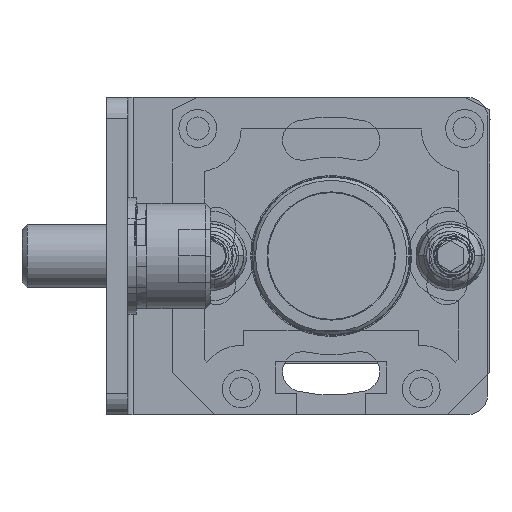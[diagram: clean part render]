
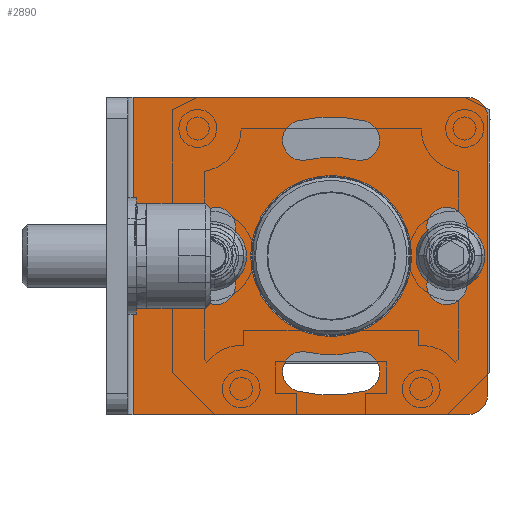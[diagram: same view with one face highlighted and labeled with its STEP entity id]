
A CAD part, front view. The second image highlights one B-rep face of the part: STEP entity #2890.
In plain terms, the highlighted planar face has unit normal (0, -1, 0).
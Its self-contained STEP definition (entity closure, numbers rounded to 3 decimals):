
#692=LINE('',#40670,#1452);
#697=LINE('',#40682,#1457);
#703=LINE('',#40698,#1463);
#707=LINE('',#40722,#1467);
#1452=VECTOR('',#13263,1.);
#1457=VECTOR('',#13272,1.);
#1463=VECTOR('',#13290,1.);
#1467=VECTOR('',#13320,1.);
#1962=PLANE('',#11082);
#2299=FACE_BOUND('',#4309,.T.);
#2300=FACE_BOUND('',#4310,.T.);
#2301=FACE_BOUND('',#4311,.T.);
#2302=FACE_BOUND('',#4312,.T.);
#2303=FACE_BOUND('',#4313,.T.);
#2304=FACE_BOUND('',#4314,.T.);
#2890=ADVANCED_FACE('',(#2299,#2300,#2301,#2302,#2303,#2304),#1962,.T.);
#4309=EDGE_LOOP('',(#6781,#6782,#6783,#6784));
#4310=EDGE_LOOP('',(#6785,#6786,#6787,#6788));
#4311=EDGE_LOOP('',(#6789,#6790,#6791,#6792));
#4312=EDGE_LOOP('',(#6793));
#4313=EDGE_LOOP('',(#6794,#6795,#6796,#6797));
#4314=EDGE_LOOP('',(#6798,#6799,#6800,#6801,#6802,#6803));
#6781=ORIENTED_EDGE('',*,*,#9603,.T.);
#6782=ORIENTED_EDGE('',*,*,#9604,.T.);
#6783=ORIENTED_EDGE('',*,*,#9542,.T.);
#6784=ORIENTED_EDGE('',*,*,#9605,.T.);
#6785=ORIENTED_EDGE('',*,*,#9606,.T.);
#6786=ORIENTED_EDGE('',*,*,#9546,.T.);
#6787=ORIENTED_EDGE('',*,*,#9607,.T.);
#6788=ORIENTED_EDGE('',*,*,#9550,.T.);
#6789=ORIENTED_EDGE('',*,*,#9608,.T.);
#6790=ORIENTED_EDGE('',*,*,#9554,.T.);
#6791=ORIENTED_EDGE('',*,*,#9609,.T.);
#6792=ORIENTED_EDGE('',*,*,#9558,.T.);
#6793=ORIENTED_EDGE('',*,*,#9563,.T.);
#6794=ORIENTED_EDGE('',*,*,#9610,.T.);
#6795=ORIENTED_EDGE('',*,*,#9611,.T.);
#6796=ORIENTED_EDGE('',*,*,#9612,.T.);
#6797=ORIENTED_EDGE('',*,*,#9564,.T.);
#6798=ORIENTED_EDGE('',*,*,#9613,.T.);
#6799=ORIENTED_EDGE('',*,*,#9614,.T.);
#6800=ORIENTED_EDGE('',*,*,#9598,.F.);
#6801=ORIENTED_EDGE('',*,*,#9584,.T.);
#6802=ORIENTED_EDGE('',*,*,#9590,.F.);
#6803=ORIENTED_EDGE('',*,*,#9615,.T.);
#8262=VERTEX_POINT('',#40580);
#8263=VERTEX_POINT('',#40581);
#8266=VERTEX_POINT('',#40589);
#8267=VERTEX_POINT('',#40590);
#8270=VERTEX_POINT('',#40598);
#8271=VERTEX_POINT('',#40599);
#8274=VERTEX_POINT('',#40607);
#8275=VERTEX_POINT('',#40608);
#8278=VERTEX_POINT('',#40616);
#8279=VERTEX_POINT('',#40617);
#8283=VERTEX_POINT('',#40627);
#8284=VERTEX_POINT('',#40630);
#8285=VERTEX_POINT('',#40631);
#8298=VERTEX_POINT('',#40667);
#8299=VERTEX_POINT('',#40669);
#8304=VERTEX_POINT('',#40681);
#8309=VERTEX_POINT('',#40699);
#8312=VERTEX_POINT('',#40709);
#8313=VERTEX_POINT('',#40710);
#8314=VERTEX_POINT('',#40718);
#8315=VERTEX_POINT('',#40720);
#8316=VERTEX_POINT('',#40723);
#8317=VERTEX_POINT('',#40724);
#9542=EDGE_CURVE('',#8262,#8263,#10244,.T.);
#9546=EDGE_CURVE('',#8266,#8267,#10246,.T.);
#9550=EDGE_CURVE('',#8270,#8271,#10248,.T.);
#9554=EDGE_CURVE('',#8274,#8275,#10250,.T.);
#9558=EDGE_CURVE('',#8278,#8279,#10252,.T.);
#9563=EDGE_CURVE('',#8283,#8283,#10255,.T.);
#9564=EDGE_CURVE('',#8284,#8285,#10256,.T.);
#9584=EDGE_CURVE('',#8298,#8299,#692,.T.);
#9590=EDGE_CURVE('',#8304,#8299,#697,.T.);
#9598=EDGE_CURVE('',#8298,#8309,#703,.T.);
#9603=EDGE_CURVE('',#8312,#8313,#10268,.T.);
#9604=EDGE_CURVE('',#8313,#8262,#10269,.T.);
#9605=EDGE_CURVE('',#8263,#8312,#10270,.T.);
#9606=EDGE_CURVE('',#8271,#8266,#10271,.T.);
#9607=EDGE_CURVE('',#8267,#8270,#10272,.T.);
#9608=EDGE_CURVE('',#8279,#8274,#10273,.T.);
#9609=EDGE_CURVE('',#8275,#8278,#10274,.T.);
#9610=EDGE_CURVE('',#8285,#8314,#10275,.T.);
#9611=EDGE_CURVE('',#8314,#8315,#10276,.T.);
#9612=EDGE_CURVE('',#8315,#8284,#10277,.T.);
#9613=EDGE_CURVE('',#8316,#8317,#707,.T.);
#9614=EDGE_CURVE('',#8317,#8309,#10278,.T.);
#9615=EDGE_CURVE('',#8304,#8316,#10279,.T.);
#10244=CIRCLE('',#11028,1.9);
#10246=CIRCLE('',#11031,13.15);
#10248=CIRCLE('',#11034,9.35);
#10250=CIRCLE('',#11037,1.9);
#10252=CIRCLE('',#11040,1.9);
#10255=CIRCLE('',#11044,7.6);
#10256=CIRCLE('',#11046,1.9);
#10268=CIRCLE('',#11070,1.9);
#10269=CIRCLE('',#11071,13.15);
#10270=CIRCLE('',#11072,9.35);
#10271=CIRCLE('',#11073,1.9);
#10272=CIRCLE('',#11074,1.9);
#10273=CIRCLE('',#11075,13.15);
#10274=CIRCLE('',#11076,9.35);
#10275=CIRCLE('',#11077,13.15);
#10276=CIRCLE('',#11078,1.9);
#10277=CIRCLE('',#11079,9.35);
#10278=CIRCLE('',#11080,2.);
#10279=CIRCLE('',#11081,2.);
#11028=AXIS2_PLACEMENT_3D('',#40579,#13179,#13180);
#11031=AXIS2_PLACEMENT_3D('',#40588,#13187,#13188);
#11034=AXIS2_PLACEMENT_3D('',#40597,#13195,#13196);
#11037=AXIS2_PLACEMENT_3D('',#40606,#13203,#13204);
#11040=AXIS2_PLACEMENT_3D('',#40615,#13211,#13212);
#11044=AXIS2_PLACEMENT_3D('',#40626,#13221,#13222);
#11046=AXIS2_PLACEMENT_3D('',#40629,#13225,#13226);
#11070=AXIS2_PLACEMENT_3D('',#40708,#13300,#13301);
#11071=AXIS2_PLACEMENT_3D('',#40711,#13302,#13303);
#11072=AXIS2_PLACEMENT_3D('',#40712,#13304,#13305);
#11073=AXIS2_PLACEMENT_3D('',#40713,#13306,#13307);
#11074=AXIS2_PLACEMENT_3D('',#40714,#13308,#13309);
#11075=AXIS2_PLACEMENT_3D('',#40715,#13310,#13311);
#11076=AXIS2_PLACEMENT_3D('',#40716,#13312,#13313);
#11077=AXIS2_PLACEMENT_3D('',#40717,#13314,#13315);
#11078=AXIS2_PLACEMENT_3D('',#40719,#13316,#13317);
#11079=AXIS2_PLACEMENT_3D('',#40721,#13318,#13319);
#11080=AXIS2_PLACEMENT_3D('',#40725,#13321,#13322);
#11081=AXIS2_PLACEMENT_3D('',#40726,#13323,#13324);
#11082=AXIS2_PLACEMENT_3D('',#40727,#13325,#13326);
#13179=DIRECTION('',(0.,1.,0.));
#13180=DIRECTION('',(0.,0.,1.));
#13187=DIRECTION('',(0.,1.,0.));
#13188=DIRECTION('',(0.,0.,1.));
#13195=DIRECTION('',(0.,-1.,0.));
#13196=DIRECTION('',(0.,0.,1.));
#13203=DIRECTION('',(0.,1.,0.));
#13204=DIRECTION('',(0.,0.,1.));
#13211=DIRECTION('',(0.,1.,0.));
#13212=DIRECTION('',(0.,0.,1.));
#13221=DIRECTION('',(0.,1.,0.));
#13222=DIRECTION('',(0.,0.,1.));
#13225=DIRECTION('',(0.,1.,0.));
#13226=DIRECTION('',(0.,0.,1.));
#13263=DIRECTION('',(0.,0.,-1.));
#13272=DIRECTION('',(-1.,0.,0.));
#13290=DIRECTION('',(1.,0.,0.));
#13300=DIRECTION('',(0.,1.,0.));
#13301=DIRECTION('',(0.,0.,1.));
#13302=DIRECTION('',(0.,1.,0.));
#13303=DIRECTION('',(0.,0.,1.));
#13304=DIRECTION('',(0.,-1.,0.));
#13305=DIRECTION('',(0.,0.,1.));
#13306=DIRECTION('',(0.,1.,0.));
#13307=DIRECTION('',(0.,0.,1.));
#13308=DIRECTION('',(0.,1.,0.));
#13309=DIRECTION('',(0.,0.,1.));
#13310=DIRECTION('',(0.,1.,0.));
#13311=DIRECTION('',(0.,0.,1.));
#13312=DIRECTION('',(0.,-1.,0.));
#13313=DIRECTION('',(0.,0.,1.));
#13314=DIRECTION('',(0.,1.,0.));
#13315=DIRECTION('',(0.,0.,1.));
#13316=DIRECTION('',(0.,1.,0.));
#13317=DIRECTION('',(0.,0.,1.));
#13318=DIRECTION('',(0.,-1.,0.));
#13319=DIRECTION('',(0.,0.,1.));
#13320=DIRECTION('',(0.,0.,1.));
#13321=DIRECTION('',(0.,-1.,0.));
#13322=DIRECTION('',(0.,0.,-1.));
#13323=DIRECTION('',(0.,-1.,0.));
#13324=DIRECTION('',(0.,0.,1.));
#13325=DIRECTION('',(0.,-1.,0.));
#13326=DIRECTION('',(-1.,0.,0.));
#40579=CARTESIAN_POINT('',(-110.921,-1208.,2.851));
#40580=CARTESIAN_POINT('',(-112.765,-1208.,3.307));
#40581=CARTESIAN_POINT('',(-109.077,-1208.,2.395));
#40588=CARTESIAN_POINT('',(-100.,-1208.,0.15));
#40589=CARTESIAN_POINT('',(-103.157,-1208.,12.915));
#40590=CARTESIAN_POINT('',(-96.843,-1208.,12.915));
#40597=CARTESIAN_POINT('',(-100.,-1208.,0.15));
#40598=CARTESIAN_POINT('',(-97.755,-1208.,9.227));
#40599=CARTESIAN_POINT('',(-102.245,-1208.,9.227));
#40606=CARTESIAN_POINT('',(-102.701,-1208.,-10.771));
#40607=CARTESIAN_POINT('',(-103.157,-1208.,-12.615));
#40608=CARTESIAN_POINT('',(-102.245,-1208.,-8.927));
#40615=CARTESIAN_POINT('',(-97.299,-1208.,-10.771));
#40616=CARTESIAN_POINT('',(-97.755,-1208.,-8.927));
#40617=CARTESIAN_POINT('',(-96.843,-1208.,-12.615));
#40626=CARTESIAN_POINT('',(-100.,-1208.,0.15));
#40627=CARTESIAN_POINT('',(-100.,-1208.,7.75));
#40629=CARTESIAN_POINT('',(-89.079,-1208.,2.851));
#40630=CARTESIAN_POINT('',(-90.923,-1208.,2.395));
#40631=CARTESIAN_POINT('',(-87.235,-1208.,3.307));
#40667=CARTESIAN_POINT('',(-118.7,-1208.,15.15));
#40669=CARTESIAN_POINT('',(-118.7,-1208.,-14.85));
#40670=CARTESIAN_POINT('',(-118.7,-1208.,15.15));
#40681=CARTESIAN_POINT('',(-87.2,-1208.,-14.85));
#40682=CARTESIAN_POINT('',(-118.7,-1208.,-14.85));
#40698=CARTESIAN_POINT('',(-118.7,-1208.,15.15));
#40699=CARTESIAN_POINT('',(-87.2,-1208.,15.15));
#40708=CARTESIAN_POINT('',(-110.921,-1208.,-2.551));
#40709=CARTESIAN_POINT('',(-109.077,-1208.,-2.095));
#40710=CARTESIAN_POINT('',(-112.765,-1208.,-3.007));
#40711=CARTESIAN_POINT('',(-100.,-1208.,0.15));
#40712=CARTESIAN_POINT('',(-100.,-1208.,0.15));
#40713=CARTESIAN_POINT('',(-102.701,-1208.,11.071));
#40714=CARTESIAN_POINT('',(-97.299,-1208.,11.071));
#40715=CARTESIAN_POINT('',(-100.,-1208.,0.15));
#40716=CARTESIAN_POINT('',(-100.,-1208.,0.15));
#40717=CARTESIAN_POINT('',(-100.,-1208.,0.15));
#40718=CARTESIAN_POINT('',(-87.235,-1208.,-3.007));
#40719=CARTESIAN_POINT('',(-89.079,-1208.,-2.551));
#40720=CARTESIAN_POINT('',(-90.923,-1208.,-2.095));
#40721=CARTESIAN_POINT('',(-100.,-1208.,0.15));
#40722=CARTESIAN_POINT('',(-85.2,-1208.,15.15));
#40723=CARTESIAN_POINT('',(-85.2,-1208.,-12.85));
#40724=CARTESIAN_POINT('',(-85.2,-1208.,13.15));
#40725=CARTESIAN_POINT('',(-87.2,-1208.,13.15));
#40726=CARTESIAN_POINT('',(-87.2,-1208.,-12.85));
#40727=CARTESIAN_POINT('',(-85.2,-1208.,15.15));
